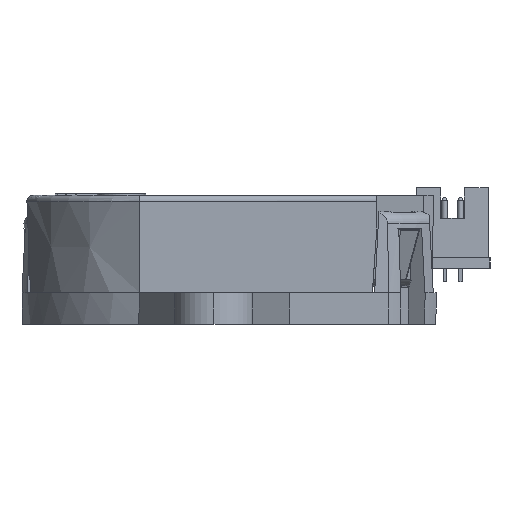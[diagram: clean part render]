
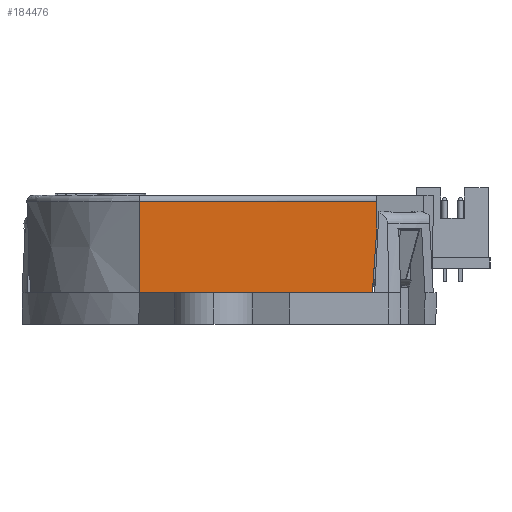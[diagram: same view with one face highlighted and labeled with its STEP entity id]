
A CAD part, left-side view. The second image highlights one B-rep face of the part: STEP entity #184476.
In plain terms, the highlighted planar face has unit normal (-1, 0, -0.018) as drawn and (1, 0, 0.017) by its records, which use the part's own axes.
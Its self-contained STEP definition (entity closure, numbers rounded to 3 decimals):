
#9017 = EDGE_CURVE ( 'NONE', #243821, #105548, #213636, .T. ) ;
#9989 = CARTESIAN_POINT ( 'NONE',  ( 14.291, 5.978, -0.791 ) ) ;
#10024 = FACE_OUTER_BOUND ( 'NONE', #78641, .T. ) ;
#15943 = ORIENTED_EDGE ( 'NONE', *, *, #66499, .F. ) ;
#21828 = LINE ( 'NONE', #22746, #84967 ) ;
#22746 = CARTESIAN_POINT ( 'NONE',  ( 14.3, -13.005, -1.3 ) ) ;
#35736 = VERTEX_POINT ( 'NONE', #236577 ) ;
#38708 = B_SPLINE_CURVE_WITH_KNOTS ( 'NONE', 3,
 ( #192428, #77636, #64960, #136334 ),
 .UNSPECIFIED., .F., .F.,
 ( 4, 4 ),
 ( 0., 0.007 ),
 .UNSPECIFIED. ) ;
#42702 = ORIENTED_EDGE ( 'NONE', *, *, #74204, .F. ) ;
#43531 = CARTESIAN_POINT ( 'NONE',  ( 14.164, 0., 6.5 ) ) ;
#53252 = DIRECTION ( 'NONE',  ( 1., 0., 0.017 ) ) ;
#55051 = ORIENTED_EDGE ( 'NONE', *, *, #80428, .F. ) ;
#55256 = AXIS2_PLACEMENT_3D ( 'NONE', #94414, #53252, #209300 ) ;
#59694 = CARTESIAN_POINT ( 'NONE',  ( 14.164, -12.648, 6.5 ) ) ;
#64182 = CARTESIAN_POINT ( 'NONE',  ( 14.291, -13.005, -0.791 ) ) ;
#64960 = CARTESIAN_POINT ( 'NONE',  ( 14.249, 5.97, 1.639 ) ) ;
#66499 = EDGE_CURVE ( 'NONE', #35736, #105154, #86149, .T. ) ;
#71257 = VECTOR ( 'NONE', #203723, 1000. ) ;
#74204 = EDGE_CURVE ( 'NONE', #103438, #105548, #38708, .T. ) ;
#77636 = CARTESIAN_POINT ( 'NONE',  ( 14.206, 5.961, 4.07 ) ) ;
#78641 = EDGE_LOOP ( 'NONE', ( #120366, #104421, #42702, #55051, #15943 ) ) ;
#80428 = EDGE_CURVE ( 'NONE', #105154, #103438, #242357, .T. ) ;
#82310 = DIRECTION ( 'NONE',  ( -0.017, 0., 1. ) ) ;
#84967 = VECTOR ( 'NONE', #82310, 1000. ) ;
#85825 = CARTESIAN_POINT ( 'NONE',  ( 14.164, 5.953, 6.5 ) ) ;
#86149 = LINE ( 'NONE', #187817, #71257 ) ;
#94414 = CARTESIAN_POINT ( 'NONE',  ( 14.3, 0., -1.3 ) ) ;
#98717 = EDGE_CURVE ( 'NONE', #243821, #35736, #21828, .T. ) ;
#103438 = VERTEX_POINT ( 'NONE', #85825 ) ;
#104421 = ORIENTED_EDGE ( 'NONE', *, *, #9017, .T. ) ;
#105154 = VERTEX_POINT ( 'NONE', #59694 ) ;
#105548 = VERTEX_POINT ( 'NONE', #9989 ) ;
#119172 = DIRECTION ( 'NONE',  ( 0., 1., 0. ) ) ;
#120366 = ORIENTED_EDGE ( 'NONE', *, *, #98717, .F. ) ;
#129727 = VECTOR ( 'NONE', #161732, 1000. ) ;
#136334 = CARTESIAN_POINT ( 'NONE',  ( 14.291, 5.978, -0.791 ) ) ;
#144965 = CARTESIAN_POINT ( 'NONE',  ( 14.291, 5.98, -0.791 ) ) ;
#161732 = DIRECTION ( 'NONE',  ( 0., 1., 0. ) ) ;
#166835 = VECTOR ( 'NONE', #119172, 1000. ) ;
#184476 = ADVANCED_FACE ( 'NONE', ( #10024 ), #207665, .T. ) ;
#187817 = CARTESIAN_POINT ( 'NONE',  ( 14.284, -13.13, -0.382 ) ) ;
#192428 = CARTESIAN_POINT ( 'NONE',  ( 14.164, 5.953, 6.5 ) ) ;
#203723 = DIRECTION ( 'NONE',  ( -0.017, 0.07, 0.997 ) ) ;
#207665 = PLANE ( 'NONE',  #55256 ) ;
#209300 = DIRECTION ( 'NONE',  ( 0.017, 0., -1. ) ) ;
#213636 = LINE ( 'NONE', #144965, #129727 ) ;
#236577 = CARTESIAN_POINT ( 'NONE',  ( 14.253, -13.005, 1.4 ) ) ;
#242357 = LINE ( 'NONE', #43531, #166835 ) ;
#243821 = VERTEX_POINT ( 'NONE', #64182 ) ;
